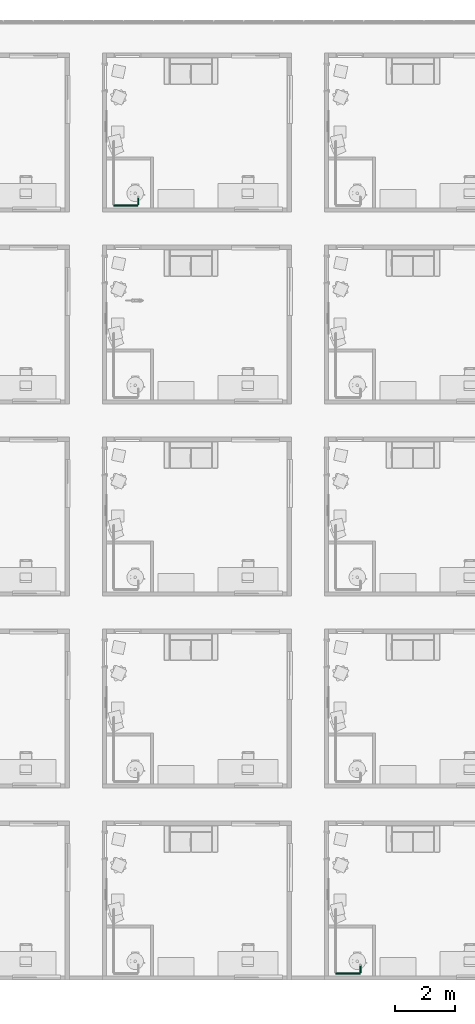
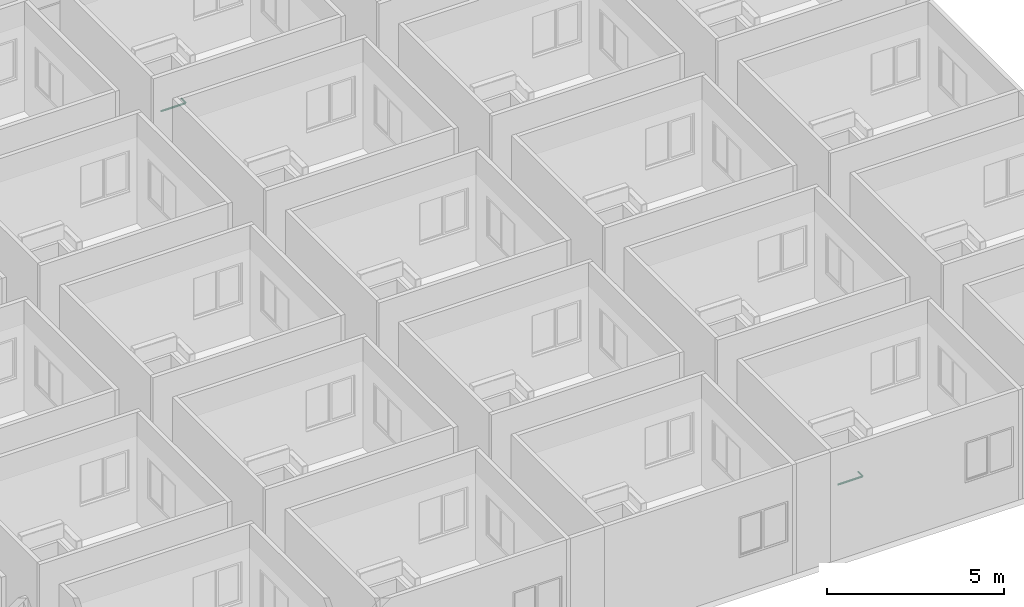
# One storey, part 49 of 71: 4 pipe segments.
"""IFC4 building model written with IfcOpenShell, lengths in centimetres."""

from ifc_helpers import new_model, entity, si_unit, converted_unit, derived_unit, direction, frame, origin, place, context, subcontext, project, spatial, arc, indexed_curve, outline, extrude, type_object, element, save


model = new_model("IFC4")

# Units and contexts
model_context = context("Model", 3, precision=0.001, world=origin(), true_north=direction((6.123233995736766e-17, 1.0)))
body_context = subcontext(model_context, "Body", "Model", "MODEL_VIEW")
ifc_project = project(units=[si_unit("LENGTHUNIT", "METRE", prefix="CENTI"), si_unit("AREAUNIT", "SQUARE_METRE"), si_unit("VOLUMEUNIT", "CUBIC_METRE"), derived_unit("THERMALTRANSMITTANCEUNIT", [(si_unit("MASSUNIT", "GRAM", prefix="KILO"), 1), (si_unit("THERMODYNAMICTEMPERATUREUNIT", "KELVIN"), -1), (si_unit("TIMEUNIT", "SECOND"), -3)]), converted_unit("PLANEANGLEUNIT", "DEGREE", entity("IfcPlaneAngleMeasure", 0.017453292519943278), si_unit("PLANEANGLEUNIT", "RADIAN"), dimensions=[0, 0, 0, 0, 0, 0, 0]), derived_unit("MASSDENSITYUNIT", [(si_unit("MASSUNIT", "GRAM", prefix="KILO"), 1), (si_unit("LENGTHUNIT", "METRE"), -3)]), derived_unit("VAPORPERMEABILITYUNIT", [(si_unit("LENGTHUNIT", "METRE"), -1), (si_unit("TIMEUNIT", "SECOND"), 1)]), derived_unit("USERDEFINED", [(si_unit("MASSUNIT", "GRAM", prefix="KILO"), 1), (si_unit("TIMEUNIT", "SECOND"), -3), (si_unit("LENGTHUNIT", "METRE"), 3), (si_unit("ELECTRICCURRENTUNIT", "AMPERE"), -2)]), derived_unit("SPECIFICHEATCAPACITYUNIT", [(si_unit("THERMODYNAMICTEMPERATUREUNIT", "KELVIN"), -1), (si_unit("LENGTHUNIT", "METRE"), 2), (si_unit("TIMEUNIT", "SECOND"), -2)]), derived_unit("THERMALCONDUCTANCEUNIT", [(si_unit("MASSUNIT", "GRAM", prefix="KILO"), 1), (si_unit("THERMODYNAMICTEMPERATUREUNIT", "KELVIN"), -1), (si_unit("TIMEUNIT", "SECOND"), -3), (si_unit("LENGTHUNIT", "METRE"), 1)]), si_unit("PRESSUREUNIT", "PASCAL"), derived_unit("MODULUSOFELASTICITYUNIT", [(si_unit("MASSUNIT", "GRAM", prefix="KILO"), 1), (si_unit("LENGTHUNIT", "METRE"), -1), (si_unit("TIMEUNIT", "SECOND"), -2)]), derived_unit("THERMALEXPANSIONCOEFFICIENTUNIT", [(si_unit("THERMODYNAMICTEMPERATUREUNIT", "KELVIN"), -1)])], contexts=[model_context])

# Site, building, storey
site_placement = place(None, origin())
site = spatial("IfcSite", under=ifc_project, at=site_placement, Name="Default", CompositionType="ELEMENT")
building_placement = place(site_placement, origin())
building = spatial("IfcBuilding", under=site, at=building_placement, Name="IDS Escape Game Building", CompositionType="ELEMENT")
storey_placement = place(building_placement, frame((0.0, 0.0, 400.0)))
storey = spatial("IfcBuildingStorey", under=building, at=storey_placement, Name="01_First Floor", CompositionType="ELEMENT", Elevation=399.99999999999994)

# Pipe segments
pipe_segment_type = type_object("IfcPipeSegmentType", Name="Pipe Types:Piping Aluminum", PredefinedType="NOTDEFINED")
pipe_segment_1_placement = place(storey_placement, origin())
element("IfcPipeSegment", 1, at=pipe_segment_1_placement, inside=storey, type_object=pipe_segment_type, Name="Pipe Types:Piping Aluminum", ObjectType="Pipe Types:Piping Aluminum", PredefinedType="NOTDEFINED", context=body_context, shape_type="SweptSolid", body=[
    extrude(outline(indexed_curve([(2.412999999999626, -2.165734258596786e-13), (1.7062486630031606, 1.7062486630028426), (3.790034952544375e-13, 2.4130000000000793), (-1.7062486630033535, 1.706248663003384), (-2.4130000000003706, -2.165734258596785e-13), (-1.706248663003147, -1.706248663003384), (3.654676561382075e-13, -2.412999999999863), (1.7062486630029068, -1.7062486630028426)], segments=[arc(1, 2, 3), arc(3, 4, 5), arc(5, 6, 7), arc(7, 8, 1)], self_intersect=False)), frame((3721.1467168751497, 21.26482792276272, 242.0), z_axis=(1.0, 0.0, 0.0), x_axis=(0.0, 1.0, 0.0)), (0.0, 0.0, 1.0), 79.90328312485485),
])
pipe_segment_2_placement = place(storey_placement, origin())
element("IfcPipeSegment", 2, at=pipe_segment_2_placement, inside=storey, type_object=pipe_segment_type, Name="Pipe Types:Piping Aluminum", ObjectType="Pipe Types:Piping Aluminum", PredefinedType="NOTDEFINED", context=body_context, shape_type="SweptSolid", body=[
    extrude(outline(indexed_curve([(2.4129999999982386, 0.0), (1.706248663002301, 1.7062486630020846), (1.2994405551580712e-12, 2.412999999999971), (-1.7062486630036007, 1.7062486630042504), (-2.413000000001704, 0.0), (-1.7062486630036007, -1.7062486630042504), (1.2994405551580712e-12, -2.412999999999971), (1.706248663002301, -1.7062486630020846)], segments=[arc(1, 2, 3), arc(3, 4, 5), arc(5, 6, 7), arc(7, 8, 1)], self_intersect=False)), frame((3802.150000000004, 22.36482792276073, 242.0), z_axis=(0.0, 1.0, 0.0), x_axis=(-1.0, 0.0, 0.0)), (0.0, 0.0, 1.0), 25.435172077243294),
])
pipe_segment_3_placement = place(storey_placement, origin())
element("IfcPipeSegment", 3, at=pipe_segment_3_placement, inside=storey, type_object=pipe_segment_type, Name="Pipe Types:Piping Aluminum", ObjectType="Pipe Types:Piping Aluminum", PredefinedType="NOTDEFINED", context=body_context, shape_type="SweptSolid", body=[
    extrude(outline(indexed_curve([(2.412999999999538, -2.165734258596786e-13), (1.7062486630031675, 1.7062486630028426), (4.331468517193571e-13, 2.4130000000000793), (-1.7062486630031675, 1.7062486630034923), (-2.4130000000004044, -2.165734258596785e-13), (-1.7062486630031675, -1.7062486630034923), (4.3314685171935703e-13, -2.412999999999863), (1.7062486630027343, -1.7062486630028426)], segments=[arc(1, 2, 3), arc(3, 4, 5), arc(5, 6, 7), arc(7, 8, 1)], self_intersect=False)), frame((2983.146716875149, 2573.264827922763, 242.0), z_axis=(1.0, 0.0, 0.0), x_axis=(0.0, 1.0, 0.0)), (0.0, 0.0, 1.0), 79.90328312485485),
])
pipe_segment_4_placement = place(storey_placement, origin())
element("IfcPipeSegment", 4, at=pipe_segment_4_placement, inside=storey, type_object=pipe_segment_type, Name="Pipe Types:Piping Aluminum", ObjectType="Pipe Types:Piping Aluminum", PredefinedType="NOTDEFINED", context=body_context, shape_type="SweptSolid", body=[
    extrude(outline(indexed_curve([(2.4129999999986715, 0.0), (1.7062486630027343, 1.7062486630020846), (1.7325874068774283e-12, 2.412999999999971), (-1.7062486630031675, 1.7062486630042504), (-2.413000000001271, 0.0), (-1.7062486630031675, -1.7062486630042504), (1.7325874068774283e-12, -2.412999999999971), (1.7062486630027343, -1.7062486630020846)], segments=[arc(1, 2, 3), arc(3, 4, 5), arc(5, 6, 7), arc(7, 8, 1)], self_intersect=False)), frame((3064.1500000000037, 2574.364827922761, 242.0), z_axis=(0.0, 1.0, 0.0), x_axis=(-1.0, 0.0, 0.0)), (0.0, 0.0, 1.0), 25.43517207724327),
])

save(model, "model.ifc")
